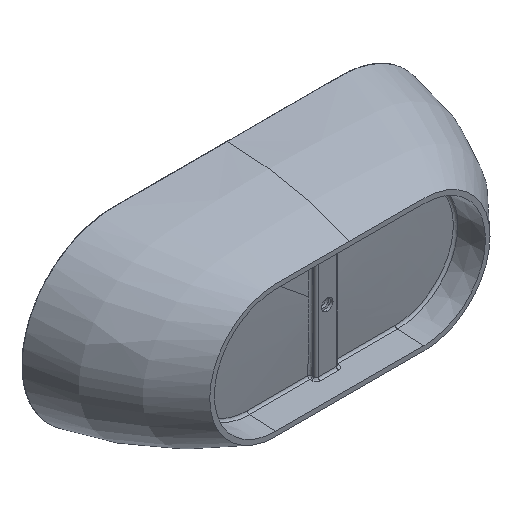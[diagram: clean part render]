
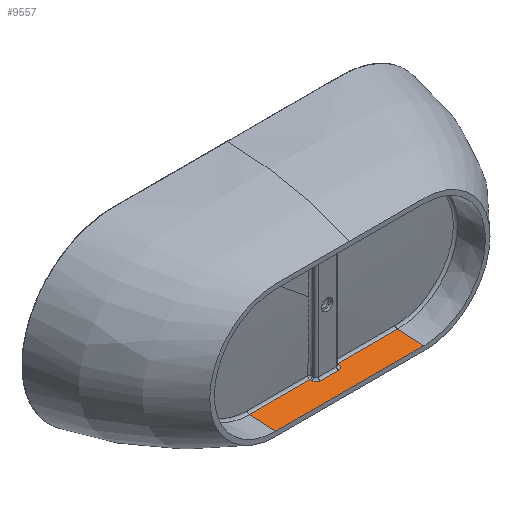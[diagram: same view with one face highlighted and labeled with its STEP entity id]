
A CAD part, isometric view. The second image highlights one B-rep face of the part: STEP entity #9557.
In plain terms, the highlighted planar face has unit normal (0, -0.052, 0.999).
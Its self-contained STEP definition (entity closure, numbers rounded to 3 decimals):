
#56 = CARTESIAN_POINT ( 'NONE',  ( -60., -430.477, -264.26 ) ) ;
#74 = LINE ( 'NONE', #9943, #10776 ) ;
#159 = VECTOR ( 'NONE', #5587, 1000. ) ;
#235 = LINE ( 'NONE', #5790, #11059 ) ;
#495 = VERTEX_POINT ( 'NONE', #56 ) ;
#523 = VERTEX_POINT ( 'NONE', #10300 ) ;
#844 = CARTESIAN_POINT ( 'NONE',  ( 302.917, -424.681, -263.956 ) ) ;
#869 = CARTESIAN_POINT ( 'NONE',  ( -325., -540., -270. ) ) ;
#1098 = CARTESIAN_POINT ( 'NONE',  ( 60., -430.477, -264.26 ) ) ;
#1105 = EDGE_CURVE ( 'NONE', #2290, #5730, #1594, .T. ) ;
#1184 = VERTEX_POINT ( 'NONE', #9447 ) ;
#1257 = ORIENTED_EDGE ( 'NONE', *, *, #8600, .F. ) ;
#1260 = CARTESIAN_POINT ( 'NONE',  ( 104.167, -424.694, -263.957 ) ) ;
#1415 = CARTESIAN_POINT ( 'NONE',  ( -325., -540., -270. ) ) ;
#1594 = B_SPLINE_CURVE_WITH_KNOTS ( 'NONE', 3,
 ( #8273, #6571, #3076, #9604, #6871, #10303, #9490, #10452, #10866, #9410 ),
 .UNSPECIFIED., .F., .F.,
 ( 4, 2, 2, 2, 4 ),
 ( 0., 0.133, 0.199, 0.232, 0.265 ),
 .UNSPECIFIED. ) ;
#1621 = DIRECTION ( 'NONE',  ( 0., 0.999, 0.052 ) ) ;
#1680 = ORIENTED_EDGE ( 'NONE', *, *, #10488, .T. ) ;
#1898 = LINE ( 'NONE', #10708, #159 ) ;
#1967 = LINE ( 'NONE', #8756, #6755 ) ;
#1968 = CARTESIAN_POINT ( 'NONE',  ( 60., -442.192, -264.874 ) ) ;
#1978 = VERTEX_POINT ( 'NONE', #4860 ) ;
#2277 = DIRECTION ( 'NONE',  ( 0., 0.999, 0.052 ) ) ;
#2290 = VERTEX_POINT ( 'NONE', #4907 ) ;
#2477 = CARTESIAN_POINT ( 'NONE',  ( -60., -540., -270. ) ) ;
#2640 = CARTESIAN_POINT ( 'NONE',  ( -40., -450.477, -265.308 ) ) ;
#2710 = VERTEX_POINT ( 'NONE', #10540 ) ;
#2761 = CARTESIAN_POINT ( 'NONE',  ( 325., -424.674, -263.956 ) ) ;
#2827 = CARTESIAN_POINT ( 'NONE',  ( -40., -450.477, -265.308 ) ) ;
#2833 = EDGE_CURVE ( 'NONE', #1184, #523, #8736, .T. ) ;
#2843 = AXIS2_PLACEMENT_3D ( 'NONE', #1415, #7375, #2277 ) ;
#2967 = EDGE_CURVE ( 'NONE', #10778, #2710, #1898, .T. ) ;
#3076 = CARTESIAN_POINT ( 'NONE',  ( -148.333, -424.692, -263.957 ) ) ;
#3299 = DIRECTION ( 'NONE',  ( 0., -0.999, -0.052 ) ) ;
#3852 = ORIENTED_EDGE ( 'NONE', *, *, #2967, .T. ) ;
#3915 = EDGE_LOOP ( 'NONE', ( #1257, #9608, #10527, #5015, #4887, #9083, #1680, #8911, #6923, #3852 ) ) ;
#3958 = PLANE ( 'NONE',  #2843 ) ;
#4277 =( BOUNDED_CURVE ( )  B_SPLINE_CURVE ( 3, ( #10487, #4523, #1968, #7936 ),
 .UNSPECIFIED., .F., .F. ) 
 B_SPLINE_CURVE_WITH_KNOTS ( ( 4, 4 ),
 ( 3.142, 4.712 ),
 .UNSPECIFIED. ) 
 CURVE ( )  GEOMETRIC_REPRESENTATION_ITEM ( )  RATIONAL_B_SPLINE_CURVE ( ( 1., 0.805, 0.805, 1. ) ) 
 REPRESENTATION_ITEM ( '' )  );
#4523 = CARTESIAN_POINT ( 'NONE',  ( 51.716, -450.477, -265.308 ) ) ;
#4860 = CARTESIAN_POINT ( 'NONE',  ( 40., -450.477, -265.308 ) ) ;
#4887 = ORIENTED_EDGE ( 'NONE', *, *, #8500, .T. ) ;
#4907 = CARTESIAN_POINT ( 'NONE',  ( -60., -424.695, -263.957 ) ) ;
#5015 = ORIENTED_EDGE ( 'NONE', *, *, #5375, .F. ) ;
#5070 = CARTESIAN_POINT ( 'NONE',  ( -325., -424.674, -263.956 ) ) ;
#5144 = CARTESIAN_POINT ( 'NONE',  ( 148.333, -424.692, -263.957 ) ) ;
#5237 =( BOUNDED_CURVE ( )  B_SPLINE_CURVE ( 3, ( #6220, #7060, #7930, #2827 ),
 .UNSPECIFIED., .F., .F. ) 
 B_SPLINE_CURVE_WITH_KNOTS ( ( 4, 4 ),
 ( 4.712, 6.283 ),
 .UNSPECIFIED. ) 
 CURVE ( )  GEOMETRIC_REPRESENTATION_ITEM ( )  RATIONAL_B_SPLINE_CURVE ( ( 1., 0.805, 0.805, 1. ) ) 
 REPRESENTATION_ITEM ( '' )  );
#5375 = EDGE_CURVE ( 'NONE', #1978, #7942, #4277, .T. ) ;
#5587 = DIRECTION ( 'NONE',  ( 1., 0., 0. ) ) ;
#5723 = EDGE_CURVE ( 'NONE', #5730, #10778, #9968, .T. ) ;
#5730 = VERTEX_POINT ( 'NONE', #5070 ) ;
#5790 = CARTESIAN_POINT ( 'NONE',  ( -325., -450.477, -265.308 ) ) ;
#6220 = CARTESIAN_POINT ( 'NONE',  ( -60., -430.477, -264.26 ) ) ;
#6262 = EDGE_CURVE ( 'NONE', #523, #7942, #74, .T. ) ;
#6571 = CARTESIAN_POINT ( 'NONE',  ( -104.167, -424.694, -263.957 ) ) ;
#6755 = VECTOR ( 'NONE', #3299, 1000. ) ;
#6826 = DIRECTION ( 'NONE',  ( 0., -0.999, -0.052 ) ) ;
#6871 = CARTESIAN_POINT ( 'NONE',  ( -236.667, -424.686, -263.957 ) ) ;
#6923 = ORIENTED_EDGE ( 'NONE', *, *, #5723, .T. ) ;
#7060 = CARTESIAN_POINT ( 'NONE',  ( -60., -442.192, -264.874 ) ) ;
#7375 = DIRECTION ( 'NONE',  ( 0., 0.052, -0.999 ) ) ;
#7569 = LINE ( 'NONE', #2477, #9597 ) ;
#7681 = CARTESIAN_POINT ( 'NONE',  ( 280.833, -424.683, -263.956 ) ) ;
#7831 = VERTEX_POINT ( 'NONE', #2640 ) ;
#7832 = CARTESIAN_POINT ( 'NONE',  ( 313.958, -424.685, -263.957 ) ) ;
#7930 = CARTESIAN_POINT ( 'NONE',  ( -51.716, -450.477, -265.308 ) ) ;
#7936 = CARTESIAN_POINT ( 'NONE',  ( 60., -430.477, -264.26 ) ) ;
#7942 = VERTEX_POINT ( 'NONE', #1098 ) ;
#7978 = EDGE_CURVE ( 'NONE', #495, #7831, #5237, .T. ) ;
#8273 = CARTESIAN_POINT ( 'NONE',  ( -60., -424.695, -263.957 ) ) ;
#8500 = EDGE_CURVE ( 'NONE', #1978, #7831, #235, .T. ) ;
#8600 = EDGE_CURVE ( 'NONE', #1184, #2710, #1967, .T. ) ;
#8709 = CARTESIAN_POINT ( 'NONE',  ( 247.708, -424.685, -263.957 ) ) ;
#8736 = B_SPLINE_CURVE_WITH_KNOTS ( 'NONE', 3,
 ( #2761, #7832, #844, #7681, #8709, #10601, #5144, #1260, #9189 ),
 .UNSPECIFIED., .F., .F.,
 ( 4, 2, 1, 2, 4 ),
 ( 0., 0.033, 0.066, 0.133, 0.265 ),
 .UNSPECIFIED. ) ;
#8756 = CARTESIAN_POINT ( 'NONE',  ( 325., -540., -270. ) ) ;
#8911 = ORIENTED_EDGE ( 'NONE', *, *, #1105, .T. ) ;
#9083 = ORIENTED_EDGE ( 'NONE', *, *, #7978, .F. ) ;
#9098 = DIRECTION ( 'NONE',  ( 0., -0.999, -0.052 ) ) ;
#9189 = CARTESIAN_POINT ( 'NONE',  ( 60., -424.695, -263.957 ) ) ;
#9410 = CARTESIAN_POINT ( 'NONE',  ( -325., -424.674, -263.956 ) ) ;
#9447 = CARTESIAN_POINT ( 'NONE',  ( 325., -424.674, -263.956 ) ) ;
#9490 = CARTESIAN_POINT ( 'NONE',  ( -280.833, -424.683, -263.956 ) ) ;
#9557 = ADVANCED_FACE ( 'NONE', ( #10926 ), #3958, .F. ) ;
#9597 = VECTOR ( 'NONE', #1621, 1000. ) ;
#9604 = CARTESIAN_POINT ( 'NONE',  ( -214.583, -424.687, -263.957 ) ) ;
#9608 = ORIENTED_EDGE ( 'NONE', *, *, #2833, .T. ) ;
#9784 = CARTESIAN_POINT ( 'NONE',  ( -325., -540., -270. ) ) ;
#9943 = CARTESIAN_POINT ( 'NONE',  ( 60., -540., -270. ) ) ;
#9968 = LINE ( 'NONE', #869, #11040 ) ;
#10300 = CARTESIAN_POINT ( 'NONE',  ( 60., -424.695, -263.957 ) ) ;
#10303 = CARTESIAN_POINT ( 'NONE',  ( -269.792, -424.683, -263.957 ) ) ;
#10452 = CARTESIAN_POINT ( 'NONE',  ( -302.917, -424.681, -263.956 ) ) ;
#10487 = CARTESIAN_POINT ( 'NONE',  ( 40., -450.477, -265.308 ) ) ;
#10488 = EDGE_CURVE ( 'NONE', #495, #2290, #7569, .T. ) ;
#10527 = ORIENTED_EDGE ( 'NONE', *, *, #6262, .T. ) ;
#10540 = CARTESIAN_POINT ( 'NONE',  ( 325., -540., -270. ) ) ;
#10601 = CARTESIAN_POINT ( 'NONE',  ( 214.583, -424.687, -263.957 ) ) ;
#10708 = CARTESIAN_POINT ( 'NONE',  ( -325., -540., -270. ) ) ;
#10776 = VECTOR ( 'NONE', #9098, 1000. ) ;
#10778 = VERTEX_POINT ( 'NONE', #9784 ) ;
#10866 = CARTESIAN_POINT ( 'NONE',  ( -313.958, -424.685, -263.957 ) ) ;
#10915 = DIRECTION ( 'NONE',  ( -1., 0., 0. ) ) ;
#10926 = FACE_OUTER_BOUND ( 'NONE', #3915, .T. ) ;
#11040 = VECTOR ( 'NONE', #6826, 1000. ) ;
#11059 = VECTOR ( 'NONE', #10915, 1000. ) ;
